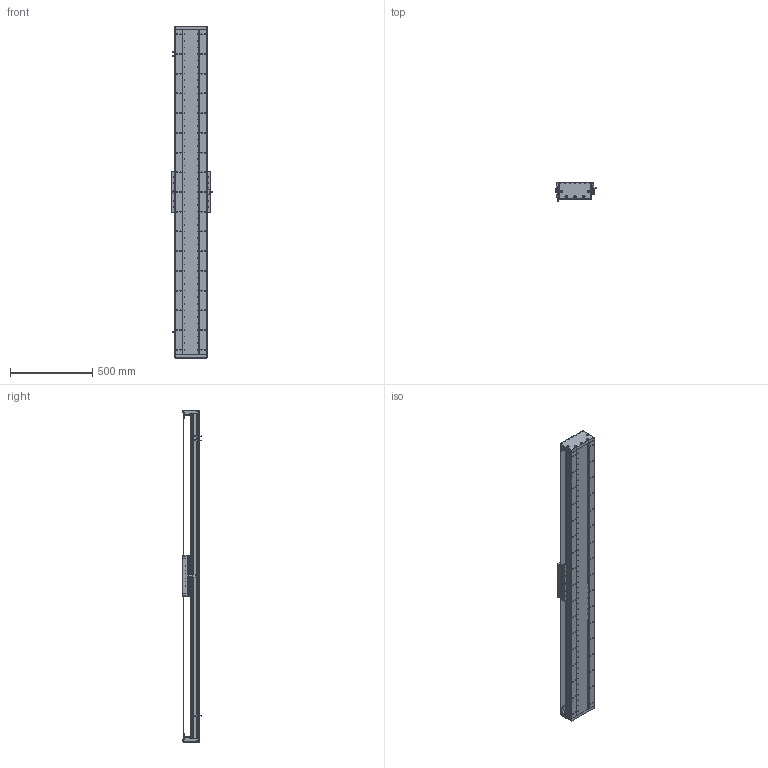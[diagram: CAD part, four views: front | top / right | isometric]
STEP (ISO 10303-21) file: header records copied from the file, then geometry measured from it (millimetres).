
FILE_DESCRIPTION (( 'STEP AP203' ), '1' );
FILE_NAME ('DA-C195-C3-T1680-C010-0.2 眻盄萇儂.STEP', '2025-08-15T01:36:56', ( '' ), ( '' ), 'SwSTEP 2.0', 'SolidWorks 2019', '' );
FILE_SCHEMA (( 'CONFIG_CONTROL_DESIGN' ));
Length unit declared in the file: millimetre
Products named in the file (15): LMT黍杅芛; IU-CU195-L 菁釱絳寢; DA-C195-GD-DB-H-00 傷啣; IU-CU195-L-00 菁釱(L1980); DA195詩湍菜輸; DA195詩湍嶺輸; DA165-GYP-00 光电感应片(默认); DA195詩湍郪璃; MS200 棠掑喜S315-T240; DA-C195-C3-T1680-C010-0.2 眻盄萇儂; CU195-C3賑輸-俋楷; 葩璃 DA95-GT-T-00; PM-T45ㄗ侂狟ㄘ; DA95-HXJ-00 遣喳砎蝶; DA195詩湍裔啣
Assembly tree (29 placements, depth 3):
  DA-C195-C3-T1680-C010-0.2 眻盄萇儂
    DA195詩湍郪璃
      DA195詩湍菜輸  x2
      DA195詩湍裔啣
      DA195詩湍嶺輸  x2
      DA95-HXJ-00 遣喳砎蝶  x8
      DA-C195-GD-DB-H-00 傷啣  x2
    IU-CU195-L 菁釱絳寢
      IU-CU195-L-00 菁釱(L1980)
      葩璃 DA95-GT-T-00  x4
    LMT黍杅芛
    MS200 棠掑喜S315-T240
    PM-T45ㄗ侂狟ㄘ  x3
    DA165-GYP-00 光电感应片(默认)
    CU195-C3賑輸-俋楷
Bounding box: 248 x 115.45 x 2020 mm (x, y, z)
Volume: 12406890.1 mm3; surface area: 3597229.3 mm2
Topology: 86 solids, 118 shells, 4086 faces, 11247 edges, 7057 vertices
Faces by surface type: cylinder 2130, plane 1354, cone 514, torus 52, sphere 36
Entity records: 126771 total; most frequent: CARTESIAN_POINT 32744, ORIENTED_EDGE 19410, DIRECTION 19086, EDGE_CURVE 9705, AXIS2_PLACEMENT_3D 7153, VERTEX_POINT 6259, LINE 4780, VECTOR 4780
